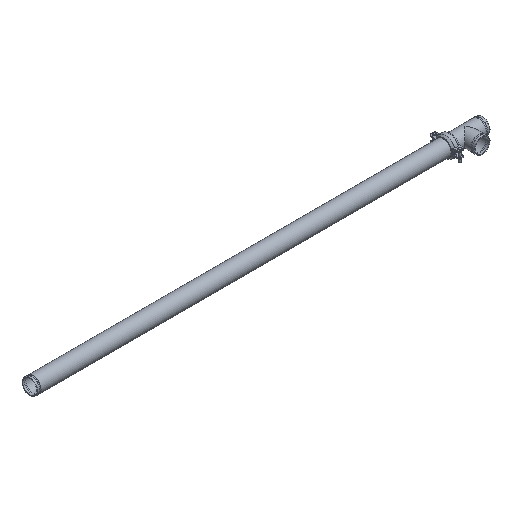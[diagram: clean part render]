
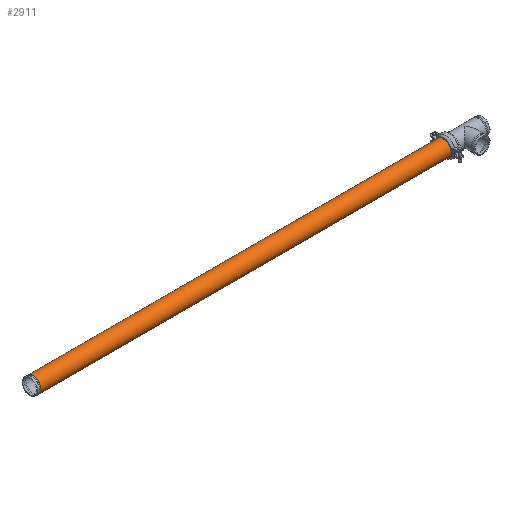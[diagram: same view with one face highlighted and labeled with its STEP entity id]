
A CAD part, isometric view. The second image highlights one B-rep face of the part: STEP entity #2911.
In plain terms, the highlighted cylindrical face has radius 57.15 mm (diameter 114.3 mm), a full revolution.
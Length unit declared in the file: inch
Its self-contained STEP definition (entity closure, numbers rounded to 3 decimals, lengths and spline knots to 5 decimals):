
#375=FACE_OUTER_BOUND('',#556,.T.);
#556=EDGE_LOOP('',(#2502,#2503,#2504,#2505,#2506,#2507));
#741=LINE('',#5683,#918);
#918=VECTOR('',#4162,2.25);
#1055=CIRCLE('',#3328,2.25);
#1056=CIRCLE('',#3329,2.25);
#1057=CIRCLE('',#3331,2.25);
#1058=CIRCLE('',#3332,2.25);
#1327=VERTEX_POINT('',#5674);
#1328=VERTEX_POINT('',#5675);
#1329=VERTEX_POINT('',#5679);
#1330=VERTEX_POINT('',#5680);
#1723=EDGE_CURVE('',#1327,#1328,#1055,.T.);
#1724=EDGE_CURVE('',#1328,#1327,#1056,.T.);
#1725=EDGE_CURVE('',#1329,#1330,#1057,.T.);
#1726=EDGE_CURVE('',#1330,#1329,#1058,.T.);
#1727=EDGE_CURVE('',#1330,#1328,#741,.T.);
#2502=ORIENTED_EDGE('',*,*,#1725,.F.);
#2503=ORIENTED_EDGE('',*,*,#1726,.F.);
#2504=ORIENTED_EDGE('',*,*,#1727,.T.);
#2505=ORIENTED_EDGE('',*,*,#1724,.T.);
#2506=ORIENTED_EDGE('',*,*,#1723,.T.);
#2507=ORIENTED_EDGE('',*,*,#1727,.F.);
#2604=CYLINDRICAL_SURFACE('',#3330,2.25);
#2911=ADVANCED_FACE('',(#375),#2604,.T.);
#3328=AXIS2_PLACEMENT_3D('',#5676,#4152,#4153);
#3329=AXIS2_PLACEMENT_3D('',#5677,#4154,#4155);
#3330=AXIS2_PLACEMENT_3D('',#5678,#4156,#4157);
#3331=AXIS2_PLACEMENT_3D('',#5681,#4158,#4159);
#3332=AXIS2_PLACEMENT_3D('',#5682,#4160,#4161);
#4152=DIRECTION('center_axis',(1.,0.,0.));
#4153=DIRECTION('ref_axis',(0.,0.,-1.));
#4154=DIRECTION('center_axis',(1.,0.,0.));
#4155=DIRECTION('ref_axis',(0.,0.,-1.));
#4156=DIRECTION('center_axis',(1.,0.,0.));
#4157=DIRECTION('ref_axis',(0.,1.,0.));
#4158=DIRECTION('center_axis',(1.,0.,0.));
#4159=DIRECTION('ref_axis',(0.,0.,-1.));
#4160=DIRECTION('center_axis',(1.,0.,0.));
#4161=DIRECTION('ref_axis',(0.,0.,-1.));
#4162=DIRECTION('',(-1.,0.,0.));
#5674=CARTESIAN_POINT('',(-59.031,2.25,0.));
#5675=CARTESIAN_POINT('',(-59.031,-2.25,0.));
#5676=CARTESIAN_POINT('Origin',(-59.031,0.,0.));
#5677=CARTESIAN_POINT('Origin',(-59.031,0.,0.));
#5678=CARTESIAN_POINT('Origin',(0.,0.,0.));
#5679=CARTESIAN_POINT('',(59.031,2.25,0.));
#5680=CARTESIAN_POINT('',(59.031,-2.25,0.));
#5681=CARTESIAN_POINT('Origin',(59.031,0.,0.));
#5682=CARTESIAN_POINT('Origin',(59.031,0.,0.));
#5683=CARTESIAN_POINT('',(0.,-2.25,0.));
